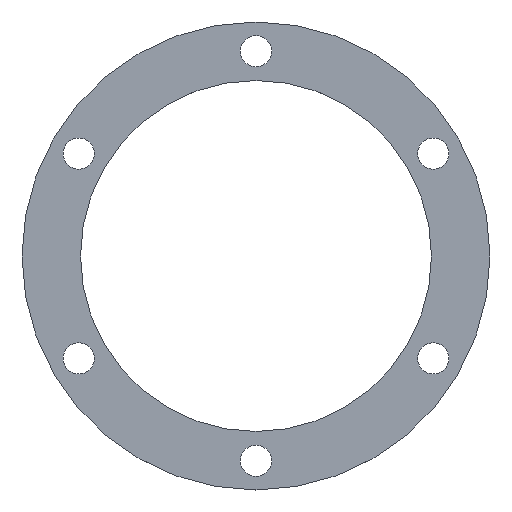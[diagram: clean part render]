
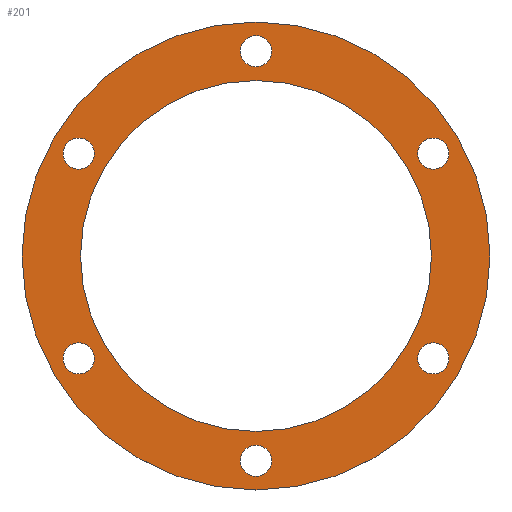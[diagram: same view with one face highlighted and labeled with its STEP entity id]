
A CAD part, top view. The second image highlights one B-rep face of the part: STEP entity #201.
In plain terms, the highlighted planar face has unit normal (0, 0, 1).
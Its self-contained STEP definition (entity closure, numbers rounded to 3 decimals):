
#15=FACE_BOUND('',#50,.T.);
#16=FACE_BOUND('',#51,.T.);
#17=FACE_BOUND('',#52,.T.);
#18=FACE_BOUND('',#53,.T.);
#19=FACE_BOUND('',#54,.T.);
#20=FACE_BOUND('',#55,.T.);
#21=FACE_BOUND('',#56,.T.);
#29=PLANE('',#247);
#39=FACE_OUTER_BOUND('',#49,.T.);
#49=EDGE_LOOP('',(#169));
#50=EDGE_LOOP('',(#170));
#51=EDGE_LOOP('',(#171));
#52=EDGE_LOOP('',(#172));
#53=EDGE_LOOP('',(#173));
#54=EDGE_LOOP('',(#174));
#55=EDGE_LOOP('',(#175));
#56=EDGE_LOOP('',(#176));
#81=CIRCLE('',#224,4.);
#83=CIRCLE('',#227,4.);
#85=CIRCLE('',#230,4.);
#87=CIRCLE('',#233,45.);
#89=CIRCLE('',#236,4.);
#91=CIRCLE('',#239,4.);
#93=CIRCLE('',#242,4.);
#95=CIRCLE('',#245,60.);
#97=VERTEX_POINT('',#313);
#99=VERTEX_POINT('',#319);
#101=VERTEX_POINT('',#325);
#103=VERTEX_POINT('',#331);
#105=VERTEX_POINT('',#337);
#107=VERTEX_POINT('',#343);
#109=VERTEX_POINT('',#349);
#111=VERTEX_POINT('',#355);
#113=EDGE_CURVE('',#97,#97,#81,.T.);
#116=EDGE_CURVE('',#99,#99,#83,.T.);
#119=EDGE_CURVE('',#101,#101,#85,.T.);
#122=EDGE_CURVE('',#103,#103,#87,.T.);
#125=EDGE_CURVE('',#105,#105,#89,.T.);
#128=EDGE_CURVE('',#107,#107,#91,.T.);
#131=EDGE_CURVE('',#109,#109,#93,.T.);
#134=EDGE_CURVE('',#111,#111,#95,.T.);
#169=ORIENTED_EDGE('',*,*,#134,.T.);
#170=ORIENTED_EDGE('',*,*,#131,.T.);
#171=ORIENTED_EDGE('',*,*,#128,.T.);
#172=ORIENTED_EDGE('',*,*,#125,.T.);
#173=ORIENTED_EDGE('',*,*,#122,.T.);
#174=ORIENTED_EDGE('',*,*,#119,.T.);
#175=ORIENTED_EDGE('',*,*,#116,.T.);
#176=ORIENTED_EDGE('',*,*,#113,.T.);
#201=ADVANCED_FACE('',(#39,#15,#16,#17,#18,#19,#20,#21),#29,.T.);
#224=AXIS2_PLACEMENT_3D('',#314,#253,#254);
#227=AXIS2_PLACEMENT_3D('',#320,#260,#261);
#230=AXIS2_PLACEMENT_3D('',#326,#267,#268);
#233=AXIS2_PLACEMENT_3D('',#332,#274,#275);
#236=AXIS2_PLACEMENT_3D('',#338,#281,#282);
#239=AXIS2_PLACEMENT_3D('',#344,#288,#289);
#242=AXIS2_PLACEMENT_3D('',#350,#295,#296);
#245=AXIS2_PLACEMENT_3D('',#356,#302,#303);
#247=AXIS2_PLACEMENT_3D('',#360,#307,#308);
#253=DIRECTION('center_axis',(0.,0.,-1.));
#254=DIRECTION('ref_axis',(-1.,0.,0.));
#260=DIRECTION('center_axis',(0.,0.,-1.));
#261=DIRECTION('ref_axis',(-1.,0.,0.));
#267=DIRECTION('center_axis',(0.,0.,-1.));
#268=DIRECTION('ref_axis',(-1.,0.,0.));
#274=DIRECTION('center_axis',(0.,0.,-1.));
#275=DIRECTION('ref_axis',(-1.,0.,0.));
#281=DIRECTION('center_axis',(0.,0.,-1.));
#282=DIRECTION('ref_axis',(-1.,0.,0.));
#288=DIRECTION('center_axis',(0.,0.,-1.));
#289=DIRECTION('ref_axis',(-1.,0.,0.));
#295=DIRECTION('center_axis',(0.,0.,-1.));
#296=DIRECTION('ref_axis',(-1.,0.,0.));
#302=DIRECTION('center_axis',(0.,0.,1.));
#303=DIRECTION('ref_axis',(1.,0.,0.));
#307=DIRECTION('center_axis',(0.,0.,1.));
#308=DIRECTION('ref_axis',(1.,0.,0.));
#313=CARTESIAN_POINT('',(148.534,18.75,1.));
#314=CARTESIAN_POINT('Origin',(144.534,18.75,1.));
#319=CARTESIAN_POINT('',(194.,45.,1.));
#320=CARTESIAN_POINT('Origin',(190.,45.,1.));
#325=CARTESIAN_POINT('',(239.466,18.75,1.));
#326=CARTESIAN_POINT('Origin',(235.466,18.75,1.));
#331=CARTESIAN_POINT('',(235.,-7.5,1.));
#332=CARTESIAN_POINT('Origin',(190.,-7.5,1.));
#337=CARTESIAN_POINT('',(194.,-60.,1.));
#338=CARTESIAN_POINT('Origin',(190.,-60.,1.));
#343=CARTESIAN_POINT('',(239.466,-33.75,1.));
#344=CARTESIAN_POINT('Origin',(235.466,-33.75,1.));
#349=CARTESIAN_POINT('',(148.534,-33.75,1.));
#350=CARTESIAN_POINT('Origin',(144.534,-33.75,1.));
#355=CARTESIAN_POINT('',(130.,-7.5,1.));
#356=CARTESIAN_POINT('Origin',(190.,-7.5,1.));
#360=CARTESIAN_POINT('Origin',(190.,-7.5,1.));
